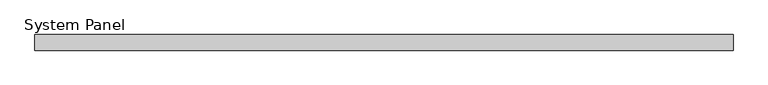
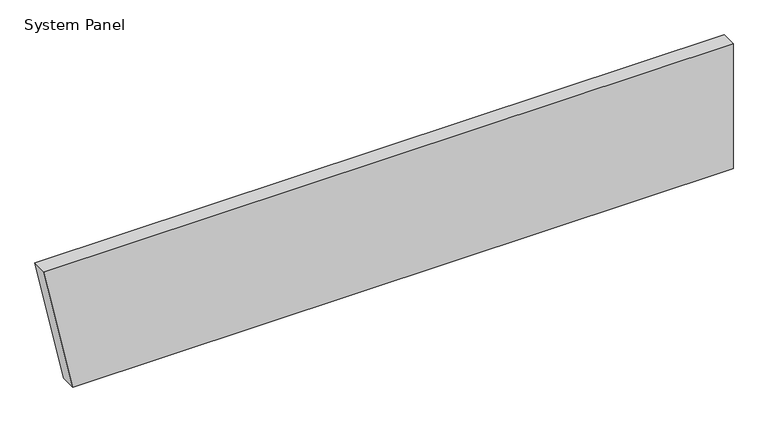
"""IFC4 building model written with IfcOpenShell, lengths in millimetres: plate geometry, System Panel : InsulWall_140mm_Plain_Surfmist."""

from ifc_helpers import new_model, si_unit, frame, origin, place, context, project, spatial, polyline, outline, extrude, source, transform, mapped, element, save


def system_panel_1a889edc(model_context):
    return source(origin(), model_context, "Body", "SweptSolid", [
        extrude(outline(polyline([(0.0, -2864.5641691), (0.0, 3125.4358309), (1200.0, 3125.4358309), (1200.0, -3125.4358309), (0.0, -2864.5641691)])), frame((0.0, -140.0, 0.0), z_axis=(0.0, 1.0, 0.0), x_axis=(0.0, 0.0, 1.0)), (0.0, 0.0, 1.0), 140.0),
    ])


if __name__ == "__main__":
    model = new_model("IFC4")
    model_context = context("Model", 3, world=origin())
    ifc_project = project(units=[si_unit("LENGTHUNIT", "METRE", prefix="MILLI")], contexts=[model_context])
    site = spatial("IfcSite", under=ifc_project)
    building = spatial("IfcBuilding", under=site)
    placement = place(None, origin())
    system_panel_shape = system_panel_1a889edc(model_context)
    element("IfcPlate", 1, ObjectType="System Panel : InsulWall_140mm_Plain_Surfmist", at=placement, inside=building, context=model_context, shape_type="MappedRepresentation", body=[
        mapped(system_panel_shape, transform((0.0, 0.0, 0.0), x_axis=(1.0, 0.0, 0.0), y_axis=(0.0, 1.0, 0.0), z_axis=(0.0, 0.0, 1.0))),
    ])
    save(model, "model.ifc")
